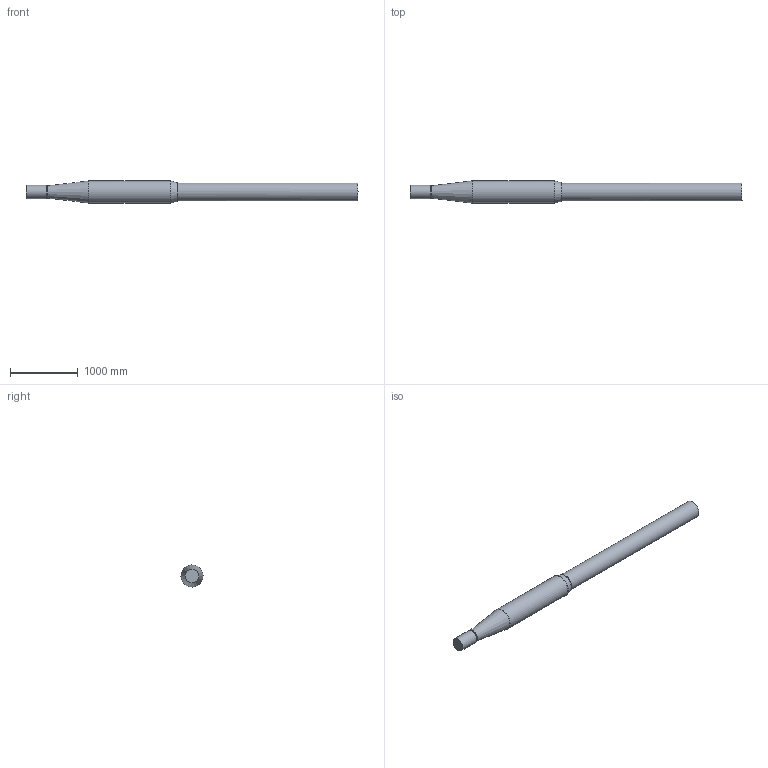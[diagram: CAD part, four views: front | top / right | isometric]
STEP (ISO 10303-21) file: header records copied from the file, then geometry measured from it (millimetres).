
FILE_DESCRIPTION(/* description */ (''),/* implementation_level */ '2;1');
FILE_NAME(/* name */ '14x22_sting_in_tunnel_0deg_mod.stp',/* time_stamp */ '2022-08-22T14:11:46-04:00',/* author */ (''),/* organization */ (''),/* preprocessor_version */ 'ST-DEVELOPER v16',/* originating_system */ 'SIEMENS PLM Software NX 10.0',/* authorisation */ '');
FILE_SCHEMA (('AP203_CONFIGURATION_CONTROLLED_3D_DESIGN_OF_MECHANICAL_PARTS_AND_ASSEMBLIES_MIM_LF { 1 0 10303 403 2 1 2}'));
Length unit declared in the file: millimetre
Products named in the file (1): sbry4E4082DFvl12
Bounding box: 4890.8 x 328.8 x 328.8 mm (x, y, z)
Volume: 297479167.3 mm3; surface area: 4332914.5 mm2
Topology: 1 solids, 1 shells, 15 faces, 34 edges, 21 vertices
Faces by surface type: torus 6, cone 4, cylinder 3, plane 2
Full cylindrical faces by diameter (mm): 200.66 x1, 264.16 x1, 328.803 x1
Entity records: 386 total; most frequent: DIRECTION 60, CARTESIAN_POINT 44, AXIS2_PLACEMENT_3D 30, EDGE_LOOP 28, ORIENTED_EDGE 28, FACE_BOUND 26, ADVANCED_FACE 15, VERTEX_POINT 14
